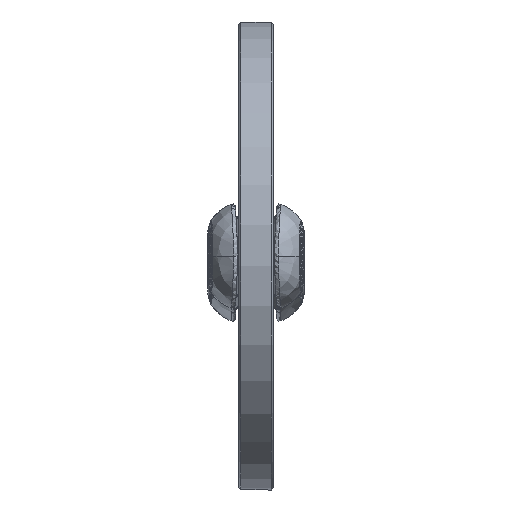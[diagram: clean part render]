
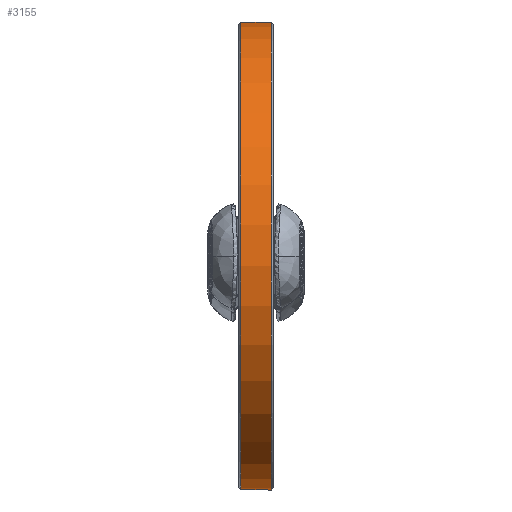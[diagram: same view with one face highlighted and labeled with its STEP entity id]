
A CAD part, top view. The second image highlights one B-rep face of the part: STEP entity #3155.
In plain terms, the highlighted cylindrical face has radius 580 mm (diameter 1160 mm), a full revolution.
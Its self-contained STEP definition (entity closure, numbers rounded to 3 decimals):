
#660=CYLINDRICAL_SURFACE($,#3505,580.);
#768=FACE_BOUND($,#1297,.T.);
#985=FACE_OUTER_BOUND($,#1296,.T.);
#1296=EDGE_LOOP($,(#2890));
#1297=EDGE_LOOP($,(#2891));
#1483=CIRCLE($,#3504,580.);
#1484=CIRCLE($,#3506,580.);
#1753=VERTEX_POINT($,#13900);
#1754=VERTEX_POINT($,#13903);
#2137=EDGE_CURVE($,#1753,#1753,#1483,.T.);
#2138=EDGE_CURVE($,#1754,#1754,#1484,.T.);
#2890=ORIENTED_EDGE($,*,*,#2138,.F.);
#2891=ORIENTED_EDGE($,*,*,#2137,.F.);
#3155=ADVANCED_FACE($,(#985,#768),#660,.T.);
#3504=AXIS2_PLACEMENT_3D($,#13901,#4241,#4242);
#3505=AXIS2_PLACEMENT_3D($,#13902,#4243,#4244);
#3506=AXIS2_PLACEMENT_3D($,#13904,#4245,#4246);
#4241=DIRECTION('center_axis',(0.,0.,-1.));
#4242=DIRECTION('ref_axis',(-1.,0.,0.));
#4243=DIRECTION('center_axis',(0.,0.,1.));
#4244=DIRECTION('ref_axis',(-1.,0.,0.));
#4245=DIRECTION('center_axis',(0.,0.,1.));
#4246=DIRECTION('ref_axis',(-1.,0.,0.));
#13900=CARTESIAN_POINT('',(580.,0.,-37.5));
#13901=CARTESIAN_POINT('Origin',(0.,0.,-37.5));
#13902=CARTESIAN_POINT('Origin',(0.,0.,0.));
#13903=CARTESIAN_POINT('',(580.,0.,37.5));
#13904=CARTESIAN_POINT('Origin',(0.,0.,37.5));
